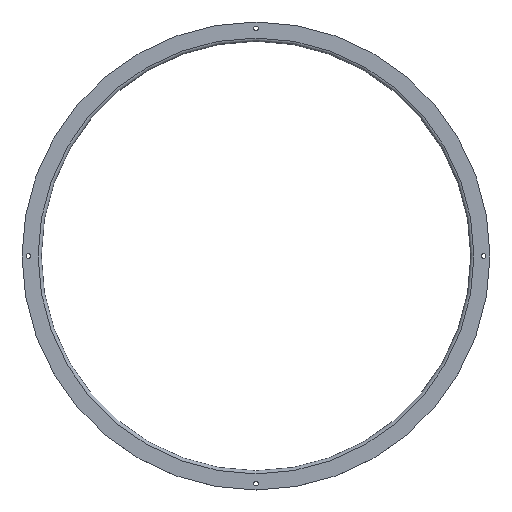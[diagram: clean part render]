
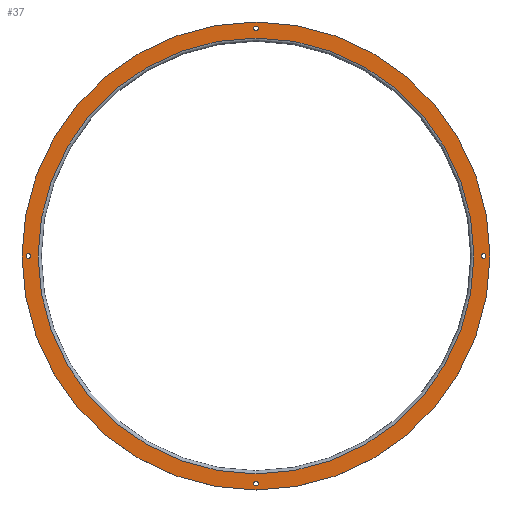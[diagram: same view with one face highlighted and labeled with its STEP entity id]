
A CAD part, top view. The second image highlights one B-rep face of the part: STEP entity #37.
In plain terms, the highlighted planar face has unit normal (0, 0, 1).
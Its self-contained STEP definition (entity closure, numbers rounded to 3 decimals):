
#37 = ADVANCED_FACE( '', ( #76, #77, #78, #79, #80, #81 ), #82, .F. );
#76 = FACE_BOUND( '', #127, .T. );
#77 = FACE_BOUND( '', #128, .T. );
#78 = FACE_BOUND( '', #129, .T. );
#79 = FACE_BOUND( '', #130, .T. );
#80 = FACE_BOUND( '', #131, .T. );
#81 = FACE_OUTER_BOUND( '', #132, .T. );
#82 = PLANE( '', #133 );
#127 = EDGE_LOOP( '', ( #176 ) );
#128 = EDGE_LOOP( '', ( #177 ) );
#129 = EDGE_LOOP( '', ( #178 ) );
#130 = EDGE_LOOP( '', ( #179 ) );
#131 = EDGE_LOOP( '', ( #180 ) );
#132 = EDGE_LOOP( '', ( #181 ) );
#133 = AXIS2_PLACEMENT_3D( '', #182, #183, #184 );
#176 = ORIENTED_EDGE( '', *, *, #229, .T. );
#177 = ORIENTED_EDGE( '', *, *, #232, .T. );
#178 = ORIENTED_EDGE( '', *, *, #233, .T. );
#179 = ORIENTED_EDGE( '', *, *, #234, .T. );
#180 = ORIENTED_EDGE( '', *, *, #227, .T. );
#181 = ORIENTED_EDGE( '', *, *, #235, .F. );
#182 = CARTESIAN_POINT( '', ( 0., 0., 50.8 ) );
#183 = DIRECTION( '', ( 0., 0., -1. ) );
#184 = DIRECTION( '', ( -1., 0., 0. ) );
#227 = EDGE_CURVE( '', #250, #250, #251, .T. );
#229 = EDGE_CURVE( '', #253, #253, #254, .T. );
#232 = EDGE_CURVE( '', #258, #258, #259, .T. );
#233 = EDGE_CURVE( '', #260, #260, #261, .T. );
#234 = EDGE_CURVE( '', #262, #262, #263, .T. );
#235 = EDGE_CURVE( '', #264, #264, #265, .T. );
#250 = VERTEX_POINT( '', #285 );
#251 = CIRCLE( '', #286, 862.7 );
#253 = VERTEX_POINT( '', #288 );
#254 = CIRCLE( '', #289, 9.525 );
#258 = VERTEX_POINT( '', #293 );
#259 = CIRCLE( '', #294, 9.525 );
#260 = VERTEX_POINT( '', #295 );
#261 = CIRCLE( '', #296, 9.525 );
#262 = VERTEX_POINT( '', #297 );
#263 = CIRCLE( '', #298, 9.525 );
#264 = VERTEX_POINT( '', #299 );
#265 = CIRCLE( '', #300, 926.2 );
#285 = CARTESIAN_POINT( '', ( -862.7, 0., 50.8 ) );
#286 = AXIS2_PLACEMENT_3D( '', #320, #321, #322 );
#288 = CARTESIAN_POINT( '', ( -9.525, 900.8, 50.8 ) );
#289 = AXIS2_PLACEMENT_3D( '', #323, #324, #325 );
#293 = CARTESIAN_POINT( '', ( 891.275, 0., 50.8 ) );
#294 = AXIS2_PLACEMENT_3D( '', #329, #330, #331 );
#295 = CARTESIAN_POINT( '', ( -910.325, 0., 50.8 ) );
#296 = AXIS2_PLACEMENT_3D( '', #332, #333, #334 );
#297 = CARTESIAN_POINT( '', ( -9.525, -900.8, 50.8 ) );
#298 = AXIS2_PLACEMENT_3D( '', #335, #336, #337 );
#299 = CARTESIAN_POINT( '', ( 926.2, 0., 50.8 ) );
#300 = AXIS2_PLACEMENT_3D( '', #338, #339, #340 );
#320 = CARTESIAN_POINT( '', ( 0., 0., 50.8 ) );
#321 = DIRECTION( '', ( 0., 0., -1. ) );
#322 = DIRECTION( '', ( -1., 0., 0. ) );
#323 = CARTESIAN_POINT( '', ( 0., 900.8, 50.8 ) );
#324 = DIRECTION( '', ( 0., 0., -1. ) );
#325 = DIRECTION( '', ( -1., 0., 0. ) );
#329 = CARTESIAN_POINT( '', ( 900.8, 0., 50.8 ) );
#330 = DIRECTION( '', ( 0., 0., -1. ) );
#331 = DIRECTION( '', ( -1., 0., 0. ) );
#332 = CARTESIAN_POINT( '', ( -900.8, 0., 50.8 ) );
#333 = DIRECTION( '', ( 0., 0., -1. ) );
#334 = DIRECTION( '', ( -1., 0., 0. ) );
#335 = CARTESIAN_POINT( '', ( 0., -900.8, 50.8 ) );
#336 = DIRECTION( '', ( 0., 0., -1. ) );
#337 = DIRECTION( '', ( -1., 0., 0. ) );
#338 = CARTESIAN_POINT( '', ( 0., 0., 50.8 ) );
#339 = DIRECTION( '', ( 0., 0., -1. ) );
#340 = DIRECTION( '', ( 1., 0., 0. ) );
